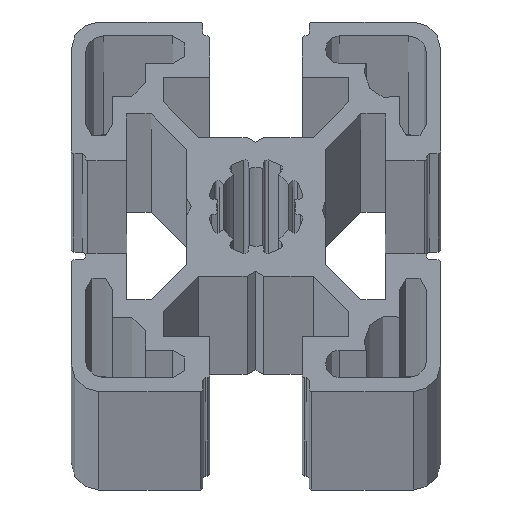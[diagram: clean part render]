
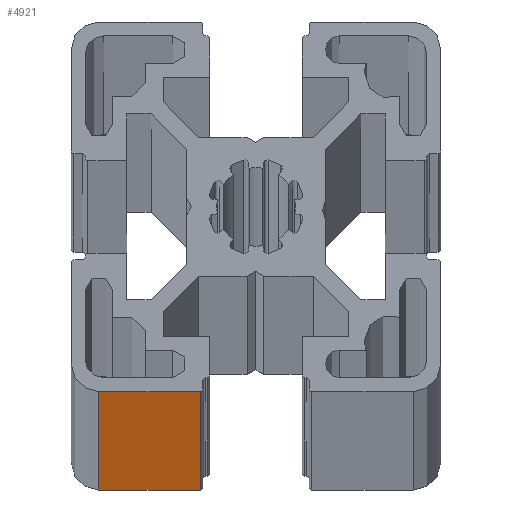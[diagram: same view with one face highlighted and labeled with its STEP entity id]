
A CAD part, top view. The second image highlights one B-rep face of the part: STEP entity #4921.
In plain terms, the highlighted planar face has unit normal (0, -1, 0).
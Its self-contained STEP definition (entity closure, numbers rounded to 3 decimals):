
#1032 = CARTESIAN_POINT ( 'NONE',  ( -26.796, 158.447, -5815. ) ) ;
#1098 = CARTESIAN_POINT ( 'NONE',  ( -26.796, 158.447, 285. ) ) ;
#1416 = CARTESIAN_POINT ( 'NONE',  ( -20.746, 158.447, 285. ) ) ;
#1418 = PLANE ( 'NONE',  #5986 ) ;
#1421 = DIRECTION ( 'NONE',  ( 0., -1., 0. ) ) ;
#1422 = DIRECTION ( 'NONE',  ( 0., 0., -1. ) ) ;
#1635 = VECTOR ( 'NONE', #3200, 1000. ) ;
#1663 = VECTOR ( 'NONE', #3341, 1000. ) ;
#1711 = LINE ( 'NONE', #3340, #1663 ) ;
#1766 = LINE ( 'NONE', #3197, #1635 ) ;
#1868 = VECTOR ( 'NONE', #3003, 1000. ) ;
#1955 = LINE ( 'NONE', #3002, #1868 ) ;
#2079 = FACE_OUTER_BOUND ( 'NONE', #5469, .T. ) ;
#2242 = LINE ( 'NONE', #3018, #2364 ) ;
#2364 = VECTOR ( 'NONE', #3024, 1000. ) ;
#2705 = CARTESIAN_POINT ( 'NONE',  ( -37.746, 158.447, 285. ) ) ;
#3002 = CARTESIAN_POINT ( 'NONE',  ( -26.796, 158.447, 285. ) ) ;
#3003 = DIRECTION ( 'NONE',  ( 0., 0., 1. ) ) ;
#3018 = CARTESIAN_POINT ( 'NONE',  ( -37.746, 158.447, 285. ) ) ;
#3024 = DIRECTION ( 'NONE',  ( 0., 0., -1. ) ) ;
#3197 = CARTESIAN_POINT ( 'NONE',  ( -37.746, 158.447, -5815. ) ) ;
#3200 = DIRECTION ( 'NONE',  ( 1., 0., 0. ) ) ;
#3340 = CARTESIAN_POINT ( 'NONE',  ( -20.746, 158.447, 285. ) ) ;
#3341 = DIRECTION ( 'NONE',  ( -1., 0., 0. ) ) ;
#3390 = CARTESIAN_POINT ( 'NONE',  ( -37.746, 158.447, -5815. ) ) ;
#3466 = VERTEX_POINT ( 'NONE', #1032 ) ;
#3549 = VERTEX_POINT ( 'NONE', #1098 ) ;
#4921 = ADVANCED_FACE ( 'NONE', ( #2079 ), #1418, .T. ) ;
#5086 = ORIENTED_EDGE ( 'NONE', *, *, #6426, .T. ) ;
#5204 = ORIENTED_EDGE ( 'NONE', *, *, #6358, .T. ) ;
#5211 = ORIENTED_EDGE ( 'NONE', *, *, #6271, .T. ) ;
#5469 = EDGE_LOOP ( 'NONE', ( #5211, #5204, #5613, #5086 ) ) ;
#5613 = ORIENTED_EDGE ( 'NONE', *, *, #6261, .T. ) ;
#5739 = VERTEX_POINT ( 'NONE', #2705 ) ;
#5986 = AXIS2_PLACEMENT_3D ( 'NONE', #1416, #1421, #1422 ) ;
#6261 = EDGE_CURVE ( 'NONE', #3466, #3549, #1955, .T. ) ;
#6271 = EDGE_CURVE ( 'NONE', #5739, #6466, #2242, .T. ) ;
#6358 = EDGE_CURVE ( 'NONE', #6466, #3466, #1766, .T. ) ;
#6426 = EDGE_CURVE ( 'NONE', #3549, #5739, #1711, .T. ) ;
#6466 = VERTEX_POINT ( 'NONE', #3390 ) ;
